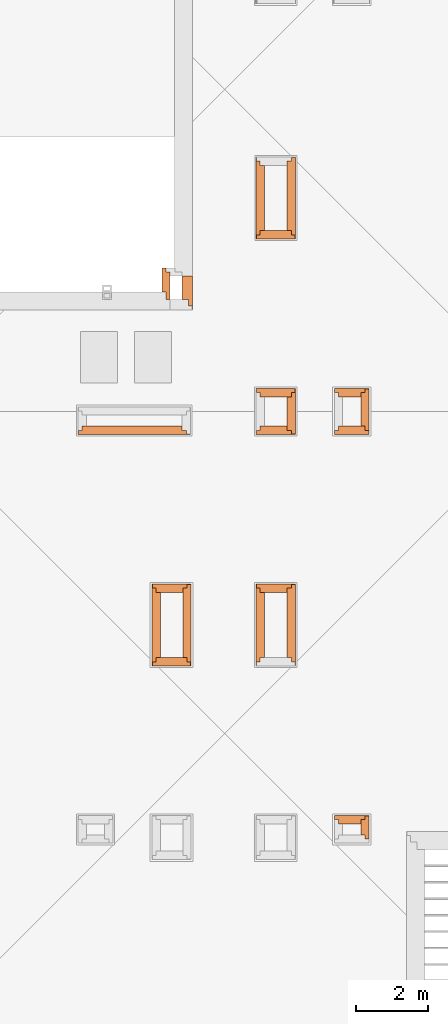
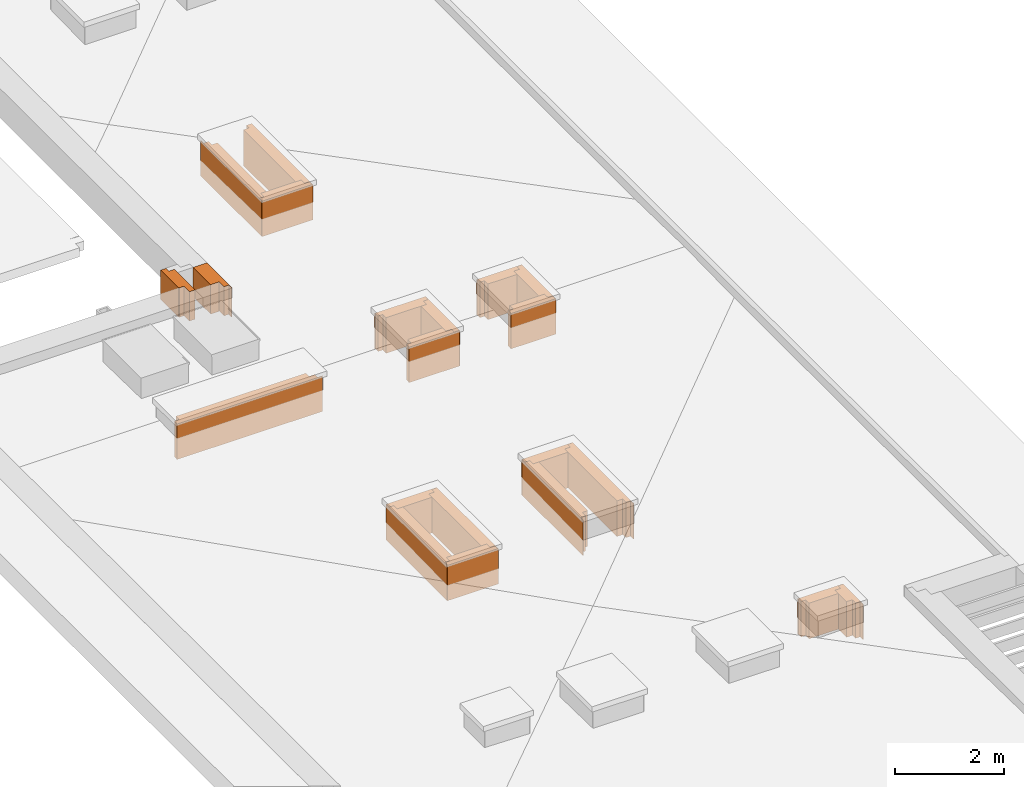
# One storey, part 14 of 16: 21 proxies.
"""IFC2X3 building model written with IfcOpenShell, lengths in millimetres."""

from ifc_helpers import new_model, entity, si_unit, converted_unit, derived_unit, money_unit, direction, frame, origin_with_axes, place, context, subcontext, project, spatial, faceted_brep, material, material_list, type_object, element, save


model = new_model("IFC2X3")

# Units and contexts
model_context = context("Model", 3, precision=0.01, world=origin_with_axes(), true_north=direction((0.34421633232, 0.938890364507)))
body_context = subcontext(model_context, "Body", "Model", "MODEL_VIEW")
ifc_project = project(units=[si_unit("LENGTHUNIT", "METRE", prefix="MILLI"), si_unit("AREAUNIT", "SQUARE_METRE"), si_unit("VOLUMEUNIT", "CUBIC_METRE"), converted_unit("PLANEANGLEUNIT", "DEGREE", entity("IfcPlaneAngleMeasure", 0.0174532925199), si_unit("PLANEANGLEUNIT", "RADIAN"), dimensions=[0, 0, 0, 0, 0, 0, 0]), si_unit("SOLIDANGLEUNIT", "STERADIAN"), money_unit("USD"), converted_unit("TIMEUNIT", "Year", entity("IfcTimeMeasure", 31556926.0), si_unit("TIMEUNIT", "SECOND"), dimensions=[0, 0, 1, 0, 0, 0, 0]), si_unit("MASSUNIT", "GRAM", prefix="KILO"), si_unit("THERMODYNAMICTEMPERATUREUNIT", "DEGREE_CELSIUS"), si_unit("LUMINOUSINTENSITYUNIT", "LUMEN"), si_unit("ENERGYUNIT", "JOULE", prefix="MEGA"), derived_unit("THERMALCONDUCTANCEUNIT", [(si_unit("POWERUNIT", "WATT"), 1), (si_unit("LENGTHUNIT", "METRE"), -1), (si_unit("THERMODYNAMICTEMPERATUREUNIT", "KELVIN"), -1)]), derived_unit("SPECIFICHEATCAPACITYUNIT", [(si_unit("ENERGYUNIT", "JOULE"), 1), (si_unit("MASSUNIT", "GRAM", prefix="KILO"), -1), (si_unit("THERMODYNAMICTEMPERATUREUNIT", "KELVIN"), -1)]), derived_unit("MASSDENSITYUNIT", [(si_unit("MASSUNIT", "GRAM", prefix="KILO"), 1), (si_unit("VOLUMEUNIT", "CUBIC_METRE"), -1)])], contexts=[model_context])

# Site, building, storey
site_placement = place(None, origin_with_axes())
site = spatial("IfcSite", under=ifc_project, at=site_placement, Name="USTRONIE MORSKIE", CompositionType="ELEMENT")
building_placement = place(site_placement, origin_with_axes())
building = spatial("IfcBuilding", under=site, at=building_placement, Name="Budynek", CompositionType="ELEMENT")
storey_placement = place(building_placement, frame((0.0, 0.0, 19000.0), z_axis=(0.0, 0.0, 1.0), x_axis=(1.0, 0.0, 0.0)))
storey = spatial("IfcBuildingStorey", under=building, at=storey_placement, Name="DACH", CompositionType="ELEMENT", Elevation=19000.0)

# Proxies
ifc_material_1 = material(Name="Bloczki silikatowe")
ifc_material_2 = material(Name="Wełna ELEW")
ifc_material_3 = material(Name="Tynk zewnętrzny")
ifc_material_list_1 = material_list([ifc_material_1, ifc_material_2, ifc_material_3])
building_element_proxy_type_1 = type_object("IfcBuildingElementProxyType", Name="12+10 kominy 230", PredefinedType="NOTDEFINED")
proxy_1_placement = place(storey_placement, frame((418817.920919, 731901.199036, -160.0), z_axis=(0.0, 0.0, 1.0), x_axis=(0.0, 1.0, 0.0)))
element("IfcBuildingElementProxy", 1, at=proxy_1_placement, inside=storey, type_object=building_element_proxy_type_1, material=ifc_material_list_1, Name="Œciana-006", context=body_context, shape_type="Brep", body=[
    faceted_brep([(1920.0, 0.0, 0.0), (1920.0, -120.0, 0.0), (0.0, -120.0, 0.0), (0.0, 0.0, 0.0), (1920.0, 0.0, 800.000001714), (1920.0, -120.0, 800.000001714), (0.0, -120.0, 800.000001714), (0.0, 0.0, 800.000001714)], [[[0, 1, 2, 3]], [[1, 0, 4, 5]], [[1, 5, 6, 2]], [[7, 3, 2, 6]], [[4, 0, 3, 7]], [[5, 4, 7, 6]]]),
    faceted_brep([(2020.0, -220.0, 5.0), (2020.0, -220.0, 800.000001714), (-120.0, -220.0, 800.000001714), (-120.0, -220.0, 5.0), (2020.0, -120.0, 5.0), (2020.0, -120.0, 800.000001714), (-120.0, -120.0, 800.000001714), (-120.0, -120.0, 5.0)], [[[0, 1, 2, 3]], [[0, 4, 5, 1]], [[1, 5, 6, 2]], [[7, 3, 2, 6]], [[4, 0, 3, 7]], [[4, 7, 6, 5]]]),
    faceted_brep([(1600.0, -230.0, 5.0), (2030.0, -230.0, 5.0), (2030.0, -230.0, 800.000001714), (-220.0, -230.0, 800.000001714), (-220.0, -230.0, 5.0), (200.0, -230.0, 5.0), (2030.0, -220.0, 5.0), (1600.0, -220.0, 5.0), (2030.0, -220.0, 800.000001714), (-220.0, -220.0, 800.000001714), (-220.0, -220.0, 5.0), (200.0, -220.0, 5.0)], [[[0, 1, 2, 3, 4, 5]], [[6, 1, 0, 7]], [[1, 6, 8, 2]], [[2, 8, 9, 3]], [[10, 4, 3, 9]], [[11, 5, 4, 10]], [[7, 0, 5, 11]], [[6, 7, 11, 10, 9, 8]]]),
])
proxy_2_placement = place(storey_placement, frame((420857.920919, 726501.199036, -160.0), z_axis=(0.0, 0.0, 1.0), x_axis=(0.0, 1.0, 0.0)))
element("IfcBuildingElementProxy", 2, at=proxy_2_placement, inside=storey, type_object=building_element_proxy_type_1, material=ifc_material_list_1, Name="Œciana-006", context=body_context, shape_type="Brep", body=[
    faceted_brep([(920.01915523, 0.0, 0.0), (920.01915523, -120.0, 0.0), (0.0, -120.0, 0.0), (0.0, 0.0, 0.0), (920.01915523, 0.0, 800.000001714), (920.01915523, -120.0, 800.000001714), (0.0, -120.0, 800.000001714), (0.0, 0.0, 800.000001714)], [[[0, 1, 2, 3]], [[1, 0, 4, 5]], [[1, 5, 6, 2]], [[7, 3, 2, 6]], [[4, 0, 3, 7]], [[5, 4, 7, 6]]]),
    faceted_brep([(1020.01915523, -220.0, 5.0), (1020.01915523, -220.0, 800.000001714), (-120.0, -220.0, 800.000001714), (-120.0, -220.0, 5.0), (1020.01915523, -120.0, 5.0), (1020.01915523, -120.0, 800.000001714), (-120.0, -120.0, 800.000001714), (-120.0, -120.0, 5.0)], [[[0, 1, 2, 3]], [[0, 4, 5, 1]], [[1, 5, 6, 2]], [[7, 3, 2, 6]], [[4, 0, 3, 7]], [[4, 7, 6, 5]]]),
    faceted_brep([(800.0, -230.0, 5.0), (1030.01915523, -230.0, 5.0), (1030.01915523, -230.0, 800.000001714), (-220.0, -230.0, 800.000001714), (-220.0, -230.0, 5.0), (1030.01915523, -220.0, 5.0), (800.0, -220.0, 5.0), (1030.01915523, -220.0, 800.000001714), (-220.0, -220.0, 800.000001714), (-220.0, -220.0, 5.0)], [[[0, 1, 2, 3, 4]], [[5, 1, 0, 6]], [[1, 5, 7, 2]], [[2, 7, 8, 3]], [[9, 4, 3, 8]], [[6, 0, 4, 9]], [[5, 6, 9, 8, 7]]]),
])
ifc_material_list_2 = material_list([ifc_material_3, ifc_material_2, ifc_material_1])
proxy_3_placement = place(storey_placement, frame((418817.920919, 726501.19248, -160.0), z_axis=(0.0, 0.0, 1.0), x_axis=(-1.0, 0.0, 0.0)))
element("IfcBuildingElementProxy", 3, at=proxy_3_placement, inside=storey, type_object=building_element_proxy_type_1, material=ifc_material_list_2, Name="Œciana-006", context=body_context, shape_type="Brep", body=[
    faceted_brep([(-220.0, 230.0, 5.0), (-220.0, 220.0, 5.0), (-220.0, 220.0, 800.000001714), (-220.0, 230.0, 800.000001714), (850.0, 220.0, 5.0), (850.0, 230.0, 5.0), (850.0, 220.0, 800.000001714), (850.0, 230.0, 800.000001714)], [[[0, 1, 2, 3]], [[4, 1, 0, 5]], [[1, 4, 6, 2]], [[6, 7, 3, 2]], [[5, 0, 3, 7]], [[4, 5, 7, 6]]]),
    faceted_brep([(-120.0, 220.0, 5.0), (-120.0, 120.0, 5.0), (-120.0, 120.0, 800.000001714), (-120.0, 220.0, 800.000001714), (840.0, 120.0, 5.0), (840.0, 220.0, 5.0), (840.0, 120.0, 800.000001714), (840.0, 220.0, 800.000001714)], [[[0, 1, 2, 3]], [[4, 1, 0, 5]], [[1, 4, 6, 2]], [[6, 7, 3, 2]], [[5, 0, 3, 7]], [[4, 5, 7, 6]]]),
    faceted_brep([(740.0, 0.0, 800.000001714), (740.0, 120.0, 800.000001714), (0.0, 120.0, 800.000001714), (0.0, 0.0, 800.000001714), (740.0, 0.0, 0.0), (740.0, 120.0, 0.0), (0.0, 120.0, 0.0), (0.0, 0.0, 0.0)], [[[0, 1, 2, 3]], [[1, 0, 4, 5]], [[1, 5, 6, 2]], [[7, 3, 2, 6]], [[4, 0, 3, 7]], [[5, 4, 7, 6]]]),
])
proxy_4_placement = place(storey_placement, frame((420857.919335, 715201.192571, -160.0), z_axis=(0.0, 0.0, 1.0), x_axis=(0.0, 1.0, 0.0)))
element("IfcBuildingElementProxy", 4, at=proxy_4_placement, inside=storey, type_object=building_element_proxy_type_1, material=ifc_material_list_1, Name="Œciana-006", context=body_context, shape_type="Brep", body=[
    faceted_brep([(420.006452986, 0.0, 0.0), (420.006452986, -120.0, 0.0), (0.0, -120.0, 0.0), (0.0, 0.0, 0.0), (420.006452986, 0.0, 800.000001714), (420.006452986, -120.0, 800.000001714), (0.0, -120.0, 800.000001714), (0.0, 0.0, 800.000001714)], [[[0, 1, 2, 3]], [[1, 0, 4, 5]], [[1, 5, 6, 2]], [[7, 3, 2, 6]], [[4, 0, 3, 7]], [[5, 4, 7, 6]]]),
    faceted_brep([(-120.0, -220.0, 5.0), (520.006452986, -220.0, 5.0), (520.006452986, -220.0, 800.000001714), (-120.0, -220.0, 800.000001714), (520.006452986, -120.0, 5.0), (-120.0, -120.0, 5.0), (520.006452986, -120.0, 800.000001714), (-120.0, -120.0, 800.000001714)], [[[0, 1, 2, 3]], [[4, 1, 0, 5]], [[1, 4, 6, 2]], [[2, 6, 7, 3]], [[5, 0, 3, 7]], [[4, 5, 7, 6]]]),
    faceted_brep([(-220.0, -230.0, 5.0), (530.006452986, -230.0, 5.0), (530.006452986, -230.0, 800.000001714), (-220.0, -230.0, 800.000001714), (530.006452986, -220.0, 5.0), (-220.0, -220.0, 5.0), (530.006452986, -220.0, 800.000001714), (-220.0, -220.0, 800.000001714)], [[[0, 1, 2, 3]], [[4, 1, 0, 5]], [[1, 4, 6, 2]], [[2, 6, 7, 3]], [[5, 0, 3, 7]], [[4, 5, 7, 6]]]),
])
proxy_5_placement = place(storey_placement, frame((418197.920942, 721901.199036, -160.0), z_axis=(0.0, 0.0, 1.0), x_axis=(0.0, -1.0, 0.0)))
element("IfcBuildingElementProxy", 5, at=proxy_5_placement, inside=storey, type_object=building_element_proxy_type_1, material=ifc_material_list_1, Name="Œciana-006", context=body_context, shape_type="Brep", body=[
    faceted_brep([(1800.0, 0.0, 0.0), (1800.0, -120.0, 0.0), (0.0, -120.0, 0.0), (0.0, 0.0, 0.0), (1800.0, 0.0, 800.000001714), (1800.0, -120.0, 800.000001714), (0.0, -120.0, 800.000001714), (0.0, 0.0, 800.000001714)], [[[0, 1, 2, 3]], [[1, 0, 4, 5]], [[1, 5, 6, 2]], [[7, 3, 2, 6]], [[4, 0, 3, 7]], [[5, 4, 7, 6]]]),
    faceted_brep([(-120.0, -120.0, 5.0), (-120.0, -120.0, 800.000001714), (1920.0, -120.0, 800.000001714), (1920.0, -120.0, 5.0), (-120.0, -220.0, 5.0), (-120.0, -220.0, 800.000001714), (1920.0, -220.0, 800.000001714), (1920.0, -220.0, 5.0)], [[[0, 1, 2, 3]], [[0, 4, 5, 1]], [[6, 2, 1, 5]], [[7, 3, 2, 6]], [[4, 0, 3, 7]], [[4, 7, 6, 5]]]),
    faceted_brep([(-220.0, -220.0, 5.0), (-220.0, -220.0, 800.000001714), (2020.0, -220.0, 800.000001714), (2020.0, -220.0, 5.0), (-220.0, -230.0, 5.0), (-220.0, -230.0, 800.000001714), (2020.0, -230.0, 800.000001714), (2020.0, -230.0, 5.0)], [[[0, 1, 2, 3]], [[0, 4, 5, 1]], [[6, 2, 1, 5]], [[7, 3, 2, 6]], [[4, 0, 3, 7]], [[4, 7, 6, 5]]]),
])
proxy_6_placement = place(storey_placement, frame((420357.920919, 726501.199036, -160.0), z_axis=(0.0, 0.0, 1.0), x_axis=(1.0, 0.0, 0.0)))
element("IfcBuildingElementProxy", 6, at=proxy_6_placement, inside=storey, type_object=building_element_proxy_type_1, material=ifc_material_list_1, Name="Œciana-006", context=body_context, shape_type="Brep", body=[
    faceted_brep([(620.0, 0.0, 0.0), (620.0, -120.0, 0.0), (-120.0, -120.0, 0.0), (-120.0, 0.0, 0.0), (620.0, 0.0, 800.000001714), (620.0, -120.0, 800.000001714), (-120.0, -120.0, 800.000001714), (-120.0, 0.0, 800.000001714)], [[[0, 1, 2, 3]], [[1, 0, 4, 5]], [[1, 5, 6, 2]], [[7, 3, 2, 6]], [[4, 0, 3, 7]], [[5, 4, 7, 6]]]),
    faceted_brep([(720.0, -220.0, 5.0), (720.0, -120.0, 5.0), (720.0, -120.0, 800.000001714), (720.0, -220.0, 800.000001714), (-220.0, -120.0, 5.0), (-220.0, -220.0, 5.0), (-220.0, -120.0, 800.000001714), (-220.0, -220.0, 800.000001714)], [[[0, 1, 2, 3]], [[4, 1, 0, 5]], [[1, 4, 6, 2]], [[3, 2, 6, 7]], [[5, 0, 3, 7]], [[4, 5, 7, 6]]]),
    faceted_brep([(730.0, -230.0, 5.0), (730.0, -220.0, 5.0), (730.0, -220.0, 800.000001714), (730.0, -230.0, 800.000001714), (-230.0, -220.0, 5.0), (-230.0, -230.0, 5.0), (-230.0, -220.0, 800.000001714), (-230.0, -230.0, 800.000001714)], [[[0, 1, 2, 3]], [[4, 1, 0, 5]], [[1, 4, 6, 2]], [[3, 2, 6, 7]], [[5, 0, 3, 7]], [[4, 5, 7, 6]]]),
])
proxy_7_placement = place(storey_placement, frame((418817.920919, 720101.199036, -160.0), z_axis=(0.0, 0.0, 1.0), x_axis=(0.0, 1.0, 0.0)))
element("IfcBuildingElementProxy", 7, at=proxy_7_placement, inside=storey, type_object=building_element_proxy_type_1, material=ifc_material_list_1, Name="Œciana-006", context=body_context, shape_type="Brep", body=[
    faceted_brep([(1920.0, 0.0, 0.0), (1920.0, -120.0, 0.0), (0.0, -120.0, 0.0), (0.0, 0.0, 0.0), (1920.0, 0.0, 800.000001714), (1920.0, -120.0, 800.000001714), (0.0, -120.0, 800.000001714), (0.0, 0.0, 800.000001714)], [[[0, 1, 2, 3]], [[1, 0, 4, 5]], [[1, 5, 6, 2]], [[7, 3, 2, 6]], [[4, 0, 3, 7]], [[5, 4, 7, 6]]]),
    faceted_brep([(2020.0, -220.0, 5.0), (2020.0, -220.0, 800.000001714), (-120.0, -220.0, 800.000001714), (-120.0, -220.0, 5.0), (2020.0, -120.0, 5.0), (2020.0, -120.0, 800.000001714), (-120.0, -120.0, 800.000001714), (-120.0, -120.0, 5.0)], [[[0, 1, 2, 3]], [[0, 4, 5, 1]], [[1, 5, 6, 2]], [[7, 3, 2, 6]], [[4, 0, 3, 7]], [[4, 7, 6, 5]]]),
    faceted_brep([(1600.0153809, -230.0, 5.0), (2030.0, -230.0, 5.0), (2030.0, -230.0, 800.000001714), (-220.0, -230.0, 800.000001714), (-220.0, -230.0, 5.0), (200.015380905, -230.0, 5.0), (2030.0, -220.0, 5.0), (1600.0153809, -220.0, 5.0), (2030.0, -220.0, 800.000001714), (-220.0, -220.0, 800.000001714), (-220.0, -220.0, 5.0), (200.015380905, -220.0, 5.0)], [[[0, 1, 2, 3, 4, 5]], [[6, 1, 0, 7]], [[1, 6, 8, 2]], [[2, 8, 9, 3]], [[10, 4, 3, 9]], [[11, 5, 4, 10]], [[7, 0, 5, 11]], [[6, 7, 11, 10, 9, 8]]]),
])
proxy_8_placement = place(storey_placement, frame((415937.924312, 720101.199036, -160.0), z_axis=(0.0, 0.0, 1.0), x_axis=(0.0, 1.0, 0.0)))
element("IfcBuildingElementProxy", 8, at=proxy_8_placement, inside=storey, type_object=building_element_proxy_type_1, material=ifc_material_list_1, Name="Œciana-006", context=body_context, shape_type="Brep", body=[
    faceted_brep([(1920.0, 0.0, 0.0), (1920.0, -120.0, 0.0), (0.0, -120.0, 0.0), (0.0, 0.0, 0.0), (1920.0, 0.0, 800.000001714), (1920.0, -120.0, 800.000001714), (0.0, -120.0, 800.000001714), (0.0, 0.0, 800.000001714)], [[[0, 1, 2, 3]], [[1, 0, 4, 5]], [[1, 5, 6, 2]], [[7, 3, 2, 6]], [[4, 0, 3, 7]], [[5, 4, 7, 6]]]),
    faceted_brep([(2020.0, -220.0, 5.0), (2020.0, -220.0, 800.000001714), (-120.0, -220.0, 800.000001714), (-120.0, -220.0, 5.0), (2020.0, -120.0, 5.0), (2020.0, -120.0, 800.000001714), (-120.0, -120.0, 800.000001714), (-120.0, -120.0, 5.0)], [[[0, 1, 2, 3]], [[0, 4, 5, 1]], [[1, 5, 6, 2]], [[7, 3, 2, 6]], [[4, 0, 3, 7]], [[4, 7, 6, 5]]]),
    faceted_brep([(1600.0153809, -230.0, 5.0), (2030.0, -230.0, 5.0), (2030.0, -230.0, 800.000001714), (-220.0, -230.0, 800.000001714), (-220.0, -230.0, 5.0), (200.015569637, -230.0, 5.0), (2030.0, -220.0, 5.0), (1600.0153809, -220.0, 5.0), (2030.0, -220.0, 800.000001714), (-220.0, -220.0, 800.000001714), (-220.0, -220.0, 5.0), (200.015569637, -220.0, 5.0)], [[[0, 1, 2, 3, 4, 5]], [[6, 1, 0, 7]], [[1, 6, 8, 2]], [[2, 8, 9, 3]], [[10, 4, 3, 9]], [[11, 5, 4, 10]], [[7, 0, 5, 11]], [[6, 7, 11, 10, 9, 8]]]),
])
proxy_9_placement = place(storey_placement, frame((418817.920919, 727301.19248, -160.0), z_axis=(0.0, 0.0, 1.0), x_axis=(0.0, -1.0, 0.0)))
element("IfcBuildingElementProxy", 9, at=proxy_9_placement, inside=storey, type_object=building_element_proxy_type_1, material=ifc_material_list_2, Name="Œciana-006", context=body_context, shape_type="Brep", body=[
    faceted_brep([(1030.0, 230.0, 5.0), (-220.0, 230.0, 5.0), (-220.0, 230.0, 800.000001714), (1030.0, 230.0, 800.000001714), (-220.0, 220.0, 5.0), (1030.0, 220.0, 5.0), (-220.0, 220.0, 800.000001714), (1030.0, 220.0, 800.000001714)], [[[0, 1, 2, 3]], [[4, 1, 0, 5]], [[1, 4, 6, 2]], [[7, 3, 2, 6]], [[5, 0, 3, 7]], [[4, 5, 7, 6]]]),
    faceted_brep([(1020.0, 220.0, 5.0), (-120.0, 220.0, 5.0), (-120.0, 220.0, 800.000001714), (1020.0, 220.0, 800.000001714), (-120.0, 120.0, 5.0), (1020.0, 120.0, 5.0), (-120.0, 120.0, 800.000001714), (1020.0, 120.0, 800.000001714)], [[[0, 1, 2, 3]], [[4, 1, 0, 5]], [[1, 4, 6, 2]], [[7, 3, 2, 6]], [[5, 0, 3, 7]], [[4, 5, 7, 6]]]),
    faceted_brep([(920.0, 0.0, 800.000001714), (920.0, 120.0, 800.000001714), (0.0, 120.0, 800.000001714), (0.0, 0.0, 800.000001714), (920.0, 0.0, 0.0), (920.0, 120.0, 0.0), (0.0, 120.0, 0.0), (0.0, 0.0, 0.0)], [[[0, 1, 2, 3]], [[1, 0, 4, 5]], [[1, 5, 6, 2]], [[7, 3, 2, 6]], [[4, 0, 3, 7]], [[5, 4, 7, 6]]]),
])
proxy_10_placement = place(storey_placement, frame((418197.920919, 727301.19248, -160.0), z_axis=(0.0, 0.0, 1.0), x_axis=(1.0, 0.0, 0.0)))
element("IfcBuildingElementProxy", 10, at=proxy_10_placement, inside=storey, type_object=building_element_proxy_type_1, material=ifc_material_list_2, Name="Œciana-006", context=body_context, shape_type="Brep", body=[
    faceted_brep([(850.0, 220.0, 5.0), (850.0, 230.0, 5.0), (850.0, 230.0, 800.000001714), (850.0, 220.0, 800.000001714), (-230.0, 230.0, 5.0), (-230.0, 220.0, 5.0), (-230.0, 230.0, 800.000001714), (-230.0, 220.0, 800.000001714)], [[[0, 1, 2, 3]], [[4, 1, 0, 5]], [[1, 4, 6, 2]], [[3, 2, 6, 7]], [[5, 0, 3, 7]], [[4, 5, 7, 6]]]),
    faceted_brep([(840.0, 120.0, 5.0), (840.0, 220.0, 5.0), (840.0, 220.0, 800.000001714), (840.0, 120.0, 800.000001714), (-220.0, 220.0, 5.0), (-220.0, 120.0, 5.0), (-220.0, 220.0, 800.000001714), (-220.0, 120.0, 800.000001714)], [[[0, 1, 2, 3]], [[4, 1, 0, 5]], [[1, 4, 6, 2]], [[3, 2, 6, 7]], [[5, 0, 3, 7]], [[4, 5, 7, 6]]]),
    faceted_brep([(740.0, 0.0, 800.000001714), (740.0, 120.0, 800.000001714), (-120.0, 120.0, 800.000001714), (-120.0, 0.0, 800.000001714), (740.0, 0.0, 0.0), (740.0, 120.0, 0.0), (-120.0, 120.0, 0.0), (-120.0, 0.0, 0.0)], [[[0, 1, 2, 3]], [[1, 0, 4, 5]], [[1, 5, 6, 2]], [[7, 3, 2, 6]], [[4, 0, 3, 7]], [[5, 4, 7, 6]]]),
])
proxy_11_placement = place(storey_placement, frame((420857.920919, 727301.218191, -160.0), z_axis=(0.0, 0.0, 1.0), x_axis=(-1.0, 0.0, 0.0)))
element("IfcBuildingElementProxy", 11, at=proxy_11_placement, inside=storey, type_object=building_element_proxy_type_1, material=ifc_material_list_1, Name="Œciana-006", context=body_context, shape_type="Brep", body=[
    faceted_brep([(620.0, 0.0, 0.0), (620.0, -120.0, 0.0), (0.0, -120.0, 0.0), (0.0, 0.0, 0.0), (620.0, 0.0, 800.000001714), (620.0, -120.0, 800.000001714), (0.0, -120.0, 800.000001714), (0.0, 0.0, 800.000001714)], [[[0, 1, 2, 3]], [[1, 0, 4, 5]], [[1, 5, 6, 2]], [[7, 3, 2, 6]], [[4, 0, 3, 7]], [[5, 4, 7, 6]]]),
    faceted_brep([(-120.0, -120.0, 5.0), (-120.0, -220.0, 5.0), (-120.0, -220.0, 800.000001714), (-120.0, -120.0, 800.000001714), (720.0, -220.0, 5.0), (720.0, -120.0, 5.0), (720.0, -220.0, 800.000001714), (720.0, -120.0, 800.000001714)], [[[0, 1, 2, 3]], [[4, 1, 0, 5]], [[1, 4, 6, 2]], [[6, 7, 3, 2]], [[5, 0, 3, 7]], [[4, 5, 7, 6]]]),
    faceted_brep([(-220.0, -220.0, 5.0), (-220.0, -230.0, 5.0), (-220.0, -230.0, 800.000001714), (-220.0, -220.0, 800.000001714), (730.0, -230.0, 5.0), (730.0, -220.0, 5.0), (730.0, -230.0, 800.000001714), (730.0, -220.0, 800.000001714)], [[[0, 1, 2, 3]], [[4, 1, 0, 5]], [[1, 4, 6, 2]], [[6, 7, 3, 2]], [[5, 0, 3, 7]], [[4, 5, 7, 6]]]),
])
proxy_12_placement = place(storey_placement, frame((418197.920919, 731901.199036, -160.0), z_axis=(0.0, 0.0, 1.0), x_axis=(1.0, 0.0, 0.0)))
element("IfcBuildingElementProxy", 12, at=proxy_12_placement, inside=storey, type_object=building_element_proxy_type_1, material=ifc_material_list_1, Name="Œciana-006", context=body_context, shape_type="Brep", body=[
    faceted_brep([(740.0, 0.0, 0.0), (740.0, -120.0, 0.0), (-120.0, -120.0, 0.0), (-120.0, 0.0, 0.0), (740.0, 0.0, 800.000001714), (740.0, -120.0, 800.000001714), (-120.0, -120.0, 800.000001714), (-120.0, 0.0, 800.000001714)], [[[0, 1, 2, 3]], [[1, 0, 4, 5]], [[1, 5, 6, 2]], [[7, 3, 2, 6]], [[4, 0, 3, 7]], [[5, 4, 7, 6]]]),
    faceted_brep([(840.0, -220.0, 5.0), (840.0, -120.0, 5.0), (840.0, -120.0, 800.000001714), (840.0, -220.0, 800.000001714), (-220.0, -120.0, 5.0), (-220.0, -220.0, 5.0), (-220.0, -120.0, 800.000001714), (-220.0, -220.0, 800.000001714)], [[[0, 1, 2, 3]], [[4, 1, 0, 5]], [[1, 4, 6, 2]], [[3, 2, 6, 7]], [[5, 0, 3, 7]], [[4, 5, 7, 6]]]),
    faceted_brep([(850.0, -230.0, 5.0), (850.0, -220.0, 5.0), (850.0, -220.0, 800.000001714), (850.0, -230.0, 800.000001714), (-230.0, -220.0, 5.0), (-230.0, -230.0, 5.0), (-230.0, -220.0, 800.000001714), (-230.0, -230.0, 800.000001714)], [[[0, 1, 2, 3]], [[4, 1, 0, 5]], [[1, 4, 6, 2]], [[3, 2, 6, 7]], [[5, 0, 3, 7]], [[4, 5, 7, 6]]]),
])
proxy_13_placement = place(storey_placement, frame((420857.919335, 715501.199024, -160.0), z_axis=(0.0, 0.0, 1.0), x_axis=(-1.0, 0.0, 0.0)))
element("IfcBuildingElementProxy", 13, at=proxy_13_placement, inside=storey, type_object=building_element_proxy_type_1, material=ifc_material_list_1, Name="Œciana-006", context=body_context, shape_type="Brep", body=[
    faceted_brep([(619.998416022, 0.0, 0.0), (619.998416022, -120.0, 0.0), (0.0, -120.0, 0.0), (0.0, 0.0, 0.0), (619.998416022, 0.0, 800.000001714), (619.998416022, -120.0, 800.000001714), (0.0, -120.0, 800.000001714), (0.0, 0.0, 800.000001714)], [[[0, 1, 2, 3]], [[1, 0, 4, 5]], [[1, 5, 6, 2]], [[7, 3, 2, 6]], [[4, 0, 3, 7]], [[5, 4, 7, 6]]]),
    faceted_brep([(-120.0, -120.0, 5.0), (-120.0, -220.0, 5.0), (-120.0, -220.0, 800.000001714), (-120.0, -120.0, 800.000001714), (719.998416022, -220.0, 5.0), (719.998416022, -120.0, 5.0), (719.998416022, -220.0, 800.000001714), (719.998416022, -120.0, 800.000001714)], [[[0, 1, 2, 3]], [[4, 1, 0, 5]], [[1, 4, 6, 2]], [[6, 7, 3, 2]], [[5, 0, 3, 7]], [[4, 5, 7, 6]]]),
    faceted_brep([(-220.0, -220.0, 5.0), (-220.0, -230.0, 5.0), (-220.0, -230.0, 800.000001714), (-220.0, -220.0, 800.000001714), (729.998416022, -230.0, 5.0), (729.998416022, -220.0, 5.0), (729.998416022, -230.0, 800.000001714), (729.998416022, -220.0, 800.000001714)], [[[0, 1, 2, 3]], [[4, 1, 0, 5]], [[1, 4, 6, 2]], [[6, 7, 3, 2]], [[5, 0, 3, 7]], [[4, 5, 7, 6]]]),
])
proxy_14_placement = place(storey_placement, frame((415917.919335, 726501.19248, -160.0), z_axis=(0.0, 0.0, 1.0), x_axis=(-1.0, 0.0, 0.0)))
element("IfcBuildingElementProxy", 14, at=proxy_14_placement, inside=storey, type_object=building_element_proxy_type_1, material=ifc_material_list_2, Name="Œciana-006", context=body_context, shape_type="Brep", body=[
    faceted_brep([(-220.0, 230.0, 5.0), (-220.0, 220.0, 5.0), (-220.0, 220.0, 800.000001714), (-220.0, 230.0, 800.000001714), (2869.99841571, 220.0, 5.0), (2869.99841571, 230.0, 5.0), (2869.99841571, 220.0, 800.000001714), (2869.99841571, 230.0, 800.000001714)], [[[0, 1, 2, 3]], [[4, 1, 0, 5]], [[1, 4, 6, 2]], [[6, 7, 3, 2]], [[5, 0, 3, 7]], [[4, 5, 7, 6]]]),
    faceted_brep([(-120.0, 220.0, 5.0), (-120.0, 120.0, 5.0), (-120.0, 120.0, 800.000001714), (-120.0, 220.0, 800.000001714), (2859.99841571, 120.0, 5.0), (2859.99841571, 220.0, 5.0), (2859.99841571, 120.0, 800.000001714), (2859.99841571, 220.0, 800.000001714)], [[[0, 1, 2, 3]], [[4, 1, 0, 5]], [[1, 4, 6, 2]], [[6, 7, 3, 2]], [[5, 0, 3, 7]], [[4, 5, 7, 6]]]),
    faceted_brep([(2759.99841571, 0.0, 800.000001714), (2759.99841571, 120.0, 800.000001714), (0.0, 120.0, 800.000001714), (0.0, 0.0, 800.000001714), (2759.99841571, 0.0, 0.0), (2759.99841571, 120.0, 0.0), (0.0, 120.0, 0.0), (0.0, 0.0, 0.0)], [[[0, 1, 2, 3]], [[1, 0, 4, 5]], [[1, 5, 6, 2]], [[7, 3, 2, 6]], [[4, 0, 3, 7]], [[5, 4, 7, 6]]]),
])
proxy_15_placement = place(storey_placement, frame((415317.920919, 720101.199036, -160.0), z_axis=(0.0, 0.0, 1.0), x_axis=(1.0, 0.0, 0.0)))
element("IfcBuildingElementProxy", 15, at=proxy_15_placement, inside=storey, type_object=building_element_proxy_type_1, material=ifc_material_list_1, Name="Œciana-006", context=body_context, shape_type="Brep", body=[
    faceted_brep([(740.003392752, 0.0, 0.0), (740.003392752, -120.0, 0.0), (-120.0, -120.0, 0.0), (-120.0, 0.0, 0.0), (740.003392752, 0.0, 800.000001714), (740.003392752, -120.0, 800.000001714), (-120.0, -120.0, 800.000001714), (-120.0, 0.0, 800.000001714)], [[[0, 1, 2, 3]], [[1, 0, 4, 5]], [[1, 5, 6, 2]], [[7, 3, 2, 6]], [[4, 0, 3, 7]], [[5, 4, 7, 6]]]),
    faceted_brep([(840.003392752, -220.0, 5.0), (840.003392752, -120.0, 5.0), (840.003392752, -120.0, 800.000001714), (840.003392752, -220.0, 800.000001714), (-220.0, -120.0, 5.0), (-220.0, -220.0, 5.0), (-220.0, -120.0, 800.000001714), (-220.0, -220.0, 800.000001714)], [[[0, 1, 2, 3]], [[4, 1, 0, 5]], [[1, 4, 6, 2]], [[3, 2, 6, 7]], [[5, 0, 3, 7]], [[4, 5, 7, 6]]]),
    faceted_brep([(850.003392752, -230.0, 5.0), (850.003392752, -220.0, 5.0), (850.003392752, -220.0, 800.000001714), (850.003392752, -230.0, 800.000001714), (-230.0, -220.0, 5.0), (-230.0, -230.0, 5.0), (-230.0, -220.0, 800.000001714), (-230.0, -230.0, 800.000001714)], [[[0, 1, 2, 3]], [[4, 1, 0, 5]], [[1, 4, 6, 2]], [[3, 2, 6, 7]], [[5, 0, 3, 7]], [[4, 5, 7, 6]]]),
])
proxy_16_placement = place(storey_placement, frame((418817.920919, 721901.199036, -160.0), z_axis=(0.0, 0.0, 1.0), x_axis=(-1.0, 0.0, 0.0)))
element("IfcBuildingElementProxy", 16, at=proxy_16_placement, inside=storey, type_object=building_element_proxy_type_1, material=ifc_material_list_1, Name="Œciana-006", context=body_context, shape_type="Brep", body=[
    faceted_brep([(739.99997673, 0.0, 0.0), (739.99997673, -120.0, 0.0), (0.0, -120.0, 0.0), (0.0, 0.0, 0.0), (739.99997673, 0.0, 800.000001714), (739.99997673, -120.0, 800.000001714), (0.0, -120.0, 800.000001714), (0.0, 0.0, 800.000001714)], [[[0, 1, 2, 3]], [[1, 0, 4, 5]], [[1, 5, 6, 2]], [[7, 3, 2, 6]], [[4, 0, 3, 7]], [[5, 4, 7, 6]]]),
    faceted_brep([(-120.0, -120.0, 5.0), (-120.0, -220.0, 5.0), (-120.0, -220.0, 800.000001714), (-120.0, -120.0, 800.000001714), (839.99997673, -220.0, 5.0), (839.99997673, -120.0, 5.0), (839.99997673, -220.0, 800.000001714), (839.99997673, -120.0, 800.000001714)], [[[0, 1, 2, 3]], [[4, 1, 0, 5]], [[1, 4, 6, 2]], [[6, 7, 3, 2]], [[5, 0, 3, 7]], [[4, 5, 7, 6]]]),
    faceted_brep([(-220.0, -220.0, 5.0), (-220.0, -230.0, 5.0), (-220.0, -230.0, 800.000001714), (-220.0, -220.0, 800.000001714), (849.99997673, -230.0, 5.0), (849.99997673, -220.0, 5.0), (849.99997673, -230.0, 800.000001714), (849.99997673, -220.0, 800.000001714)], [[[0, 1, 2, 3]], [[4, 1, 0, 5]], [[1, 4, 6, 2]], [[6, 7, 3, 2]], [[5, 0, 3, 7]], [[4, 5, 7, 6]]]),
])
proxy_17_placement = place(storey_placement, frame((418197.920919, 733701.199036, -160.0), z_axis=(0.0, 0.0, 1.0), x_axis=(0.0, -1.0, 0.0)))
element("IfcBuildingElementProxy", 17, at=proxy_17_placement, inside=storey, type_object=building_element_proxy_type_1, material=ifc_material_list_1, Name="Œciana-006", context=body_context, shape_type="Brep", body=[
    faceted_brep([(1800.0, 0.0, 0.0), (1800.0, -120.0, 0.0), (0.0, -120.0, 0.0), (0.0, 0.0, 0.0), (1800.0, 0.0, 800.000001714), (1800.0, -120.0, 800.000001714), (0.0, -120.0, 800.000001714), (0.0, 0.0, 800.000001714)], [[[0, 1, 2, 3]], [[1, 0, 4, 5]], [[1, 5, 6, 2]], [[7, 3, 2, 6]], [[4, 0, 3, 7]], [[5, 4, 7, 6]]]),
    faceted_brep([(-120.0, -120.0, 5.0), (-120.0, -120.0, 800.000001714), (1920.0, -120.0, 800.000001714), (1920.0, -120.0, 5.0), (-120.0, -220.0, 5.0), (-120.0, -220.0, 800.000001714), (1920.0, -220.0, 800.000001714), (1920.0, -220.0, 5.0)], [[[0, 1, 2, 3]], [[0, 4, 5, 1]], [[6, 2, 1, 5]], [[7, 3, 2, 6]], [[4, 0, 3, 7]], [[4, 7, 6, 5]]]),
    faceted_brep([(-220.0, -220.0, 5.0), (-220.0, -220.0, 800.000001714), (2020.0, -220.0, 800.000001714), (2020.0, -220.0, 5.0), (-220.0, -230.0, 5.0), (-220.0, -230.0, 800.000001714), (2020.0, -230.0, 800.000001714), (2020.0, -230.0, 5.0)], [[[0, 1, 2, 3]], [[0, 4, 5, 1]], [[6, 2, 1, 5]], [[7, 3, 2, 6]], [[4, 0, 3, 7]], [[4, 7, 6, 5]]]),
])
proxy_18_placement = place(storey_placement, frame((415937.924312, 721901.199036, -160.0), z_axis=(0.0, 0.0, 1.0), x_axis=(-1.0, 0.0, 0.0)))
element("IfcBuildingElementProxy", 18, at=proxy_18_placement, inside=storey, type_object=building_element_proxy_type_1, material=ifc_material_list_1, Name="Œciana-006", context=body_context, shape_type="Brep", body=[
    faceted_brep([(740.003392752, 0.0, 0.0), (740.003392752, -120.0, 0.0), (0.0, -120.0, 0.0), (0.0, 0.0, 0.0), (740.003392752, 0.0, 800.000001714), (740.003392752, -120.0, 800.000001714), (0.0, -120.0, 800.000001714), (0.0, 0.0, 800.000001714)], [[[0, 1, 2, 3]], [[1, 0, 4, 5]], [[1, 5, 6, 2]], [[7, 3, 2, 6]], [[4, 0, 3, 7]], [[5, 4, 7, 6]]]),
    faceted_brep([(-120.0, -120.0, 5.0), (-120.0, -220.0, 5.0), (-120.0, -220.0, 800.000001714), (-120.0, -120.0, 800.000001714), (840.003392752, -220.0, 5.0), (840.003392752, -120.0, 5.0), (840.003392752, -220.0, 800.000001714), (840.003392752, -120.0, 800.000001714)], [[[0, 1, 2, 3]], [[4, 1, 0, 5]], [[1, 4, 6, 2]], [[6, 7, 3, 2]], [[5, 0, 3, 7]], [[4, 5, 7, 6]]]),
    faceted_brep([(-220.0, -220.0, 5.0), (-220.0, -230.0, 5.0), (-220.0, -230.0, 800.000001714), (-220.0, -220.0, 800.000001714), (850.003392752, -230.0, 5.0), (850.003392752, -220.0, 5.0), (850.003392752, -230.0, 800.000001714), (850.003392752, -220.0, 800.000001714)], [[[0, 1, 2, 3]], [[4, 1, 0, 5]], [[1, 4, 6, 2]], [[6, 7, 3, 2]], [[5, 0, 3, 7]], [[4, 5, 7, 6]]]),
])
proxy_19_placement = place(storey_placement, frame((415317.920919, 721901.199036, -160.0), z_axis=(0.0, 0.0, 1.0), x_axis=(0.0, -1.0, 0.0)))
element("IfcBuildingElementProxy", 19, at=proxy_19_placement, inside=storey, type_object=building_element_proxy_type_1, material=ifc_material_list_1, Name="Œciana-006", context=body_context, shape_type="Brep", body=[
    faceted_brep([(1800.0, 0.0, 0.0), (1800.0, -120.0, 0.0), (0.0, -120.0, 0.0), (0.0, 0.0, 0.0), (1800.0, 0.0, 800.000001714), (1800.0, -120.0, 800.000001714), (0.0, -120.0, 800.000001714), (0.0, 0.0, 800.000001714)], [[[0, 1, 2, 3]], [[1, 0, 4, 5]], [[1, 5, 6, 2]], [[7, 3, 2, 6]], [[4, 0, 3, 7]], [[5, 4, 7, 6]]]),
    faceted_brep([(-120.0, -120.0, 5.0), (-120.0, -120.0, 800.000001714), (1920.0, -120.0, 800.000001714), (1920.0, -120.0, 5.0), (-120.0, -220.0, 5.0), (-120.0, -220.0, 800.000001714), (1920.0, -220.0, 800.000001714), (1920.0, -220.0, 5.0)], [[[0, 1, 2, 3]], [[0, 4, 5, 1]], [[6, 2, 1, 5]], [[7, 3, 2, 6]], [[4, 0, 3, 7]], [[4, 7, 6, 5]]]),
    faceted_brep([(-220.0, -220.0, 5.0), (-220.0, -220.0, 800.000001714), (2020.0, -220.0, 800.000001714), (2020.0, -220.0, 5.0), (-220.0, -230.0, 5.0), (-220.0, -230.0, 800.000001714), (2020.0, -230.0, 800.000001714), (2020.0, -230.0, 5.0)], [[[0, 1, 2, 3]], [[0, 4, 5, 1]], [[6, 2, 1, 5]], [[7, 3, 2, 6]], [[4, 0, 3, 7]], [[4, 7, 6, 5]]]),
])
proxy_20_placement = place(storey_placement, frame((415587.920919, 730001.199019, -159.999998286), z_axis=(0.0, 0.0, 1.0), x_axis=(0.0, 1.0, 0.0)))
element("IfcBuildingElementProxy", 20, at=proxy_20_placement, inside=storey, type_object=building_element_proxy_type_1, material=ifc_material_list_2, Name="Œciana-006", context=body_context, shape_type="Brep", body=[
    faceted_brep([(870.000017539, 230.0, 659.999998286), (210.0, 230.0, 659.999998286), (210.0, 220.0, 659.999998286), (870.000017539, 220.0, 659.999998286), (870.000017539, 230.0, -1.36012090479e-07), (210.0, 230.0, -1.71373315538e-06), (210.0, 220.0, -1.71373315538e-06), (870.000017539, 220.0, -1.36012090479e-07)], [[[0, 1, 2, 3]], [[4, 5, 1, 0]], [[5, 6, 2, 1]], [[3, 2, 6, 7]], [[4, 0, 3, 7]], [[7, 6, 5, 4]]]),
    faceted_brep([(860.000017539, 220.0, 659.999998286), (200.0, 220.0, 659.999998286), (200.0, 120.0, 659.999998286), (860.000017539, 120.0, 659.999998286), (860.000017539, 220.0, -1.49611878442e-07), (200.0, 220.0, -1.70030745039e-06), (200.0, 120.0, -1.70008007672e-06), (860.000017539, 120.0, -1.49611878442e-07)], [[[0, 1, 2, 3]], [[4, 5, 1, 0]], [[5, 6, 2, 1]], [[3, 2, 6, 7]], [[4, 0, 3, 7]], [[7, 6, 5, 4]]]),
    faceted_brep([(1.13686837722e-10, 120.0, 659.999998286), (1.13686837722e-10, 0.0, 659.999998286), (760.000017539, 0.0, 659.999998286), (760.000017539, 120.0, 659.999998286), (1.13686837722e-10, 120.0, -1.70008007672e-06), (1.13686837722e-10, 0.0, -1.69980651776e-06), (760.000017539, 0.0, -2.85623968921e-07), (760.000017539, 120.0, -2.85623968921e-07)], [[[0, 1, 2, 3]], [[1, 0, 4, 5]], [[1, 5, 6, 2]], [[3, 2, 6, 7]], [[4, 0, 3, 7]], [[5, 4, 7, 6]]]),
])
building_element_proxy_type_2 = type_object("IfcBuildingElementProxyType", Name="18 SILIKAT+-10 290", PredefinedType="NOTDEFINED")
proxy_21_placement = place(storey_placement, frame((415917.920919, 730641.199036, -159.999999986), z_axis=(0.0, 0.0, 1.0), x_axis=(0.0, -1.0, 0.0)))
element("IfcBuildingElementProxy", 21, at=proxy_21_placement, inside=storey, type_object=building_element_proxy_type_2, material=ifc_material_list_2, Name="Œciana-006", context=body_context, shape_type="Brep", body=[
    faceted_brep([(920.000017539, 290.0, 4.99999998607), (0.0, 290.0, 4.99999998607), (0.0, 290.0, 659.999999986), (920.000017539, 290.0, 659.999999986), (0.0, 280.0, 4.99999998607), (920.000017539, 280.0, 4.99999998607), (0.0, 280.0, 659.999999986), (920.000017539, 280.0, 659.999999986)], [[[0, 1, 2, 3]], [[4, 1, 0, 5]], [[1, 4, 6, 2]], [[2, 6, 7, 3]], [[5, 0, 3, 7]], [[4, 5, 7, 6]]]),
    faceted_brep([(820.000017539, 280.0, 4.99999998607), (0.0, 280.0, 4.99999998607), (0.0, 280.0, 659.999999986), (820.000017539, 280.0, 659.999999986), (0.0, 180.0, 4.99999998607), (820.000017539, 180.0, 4.99999998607), (0.0, 180.0, 659.999999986), (820.000017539, 180.0, 659.999999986)], [[[0, 1, 2, 3]], [[4, 1, 0, 5]], [[1, 4, 6, 2]], [[2, 6, 7, 3]], [[5, 0, 3, 7]], [[4, 5, 7, 6]]]),
    faceted_brep([(0.0, 0.0, 0.0), (0.0, 180.0, 0.0), (640.000017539, 180.0, 0.0), (640.000017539, 0.0, 0.0), (0.0, 0.0, 659.999999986), (0.0, 180.0, 659.999999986), (640.000017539, 180.0, 659.999999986), (640.000017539, 0.0, 659.999999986)], [[[0, 1, 2, 3]], [[4, 5, 1, 0]], [[1, 5, 6, 2]], [[7, 3, 2, 6]], [[4, 0, 3, 7]], [[5, 4, 7, 6]]]),
])

save(model, "model.ifc")
